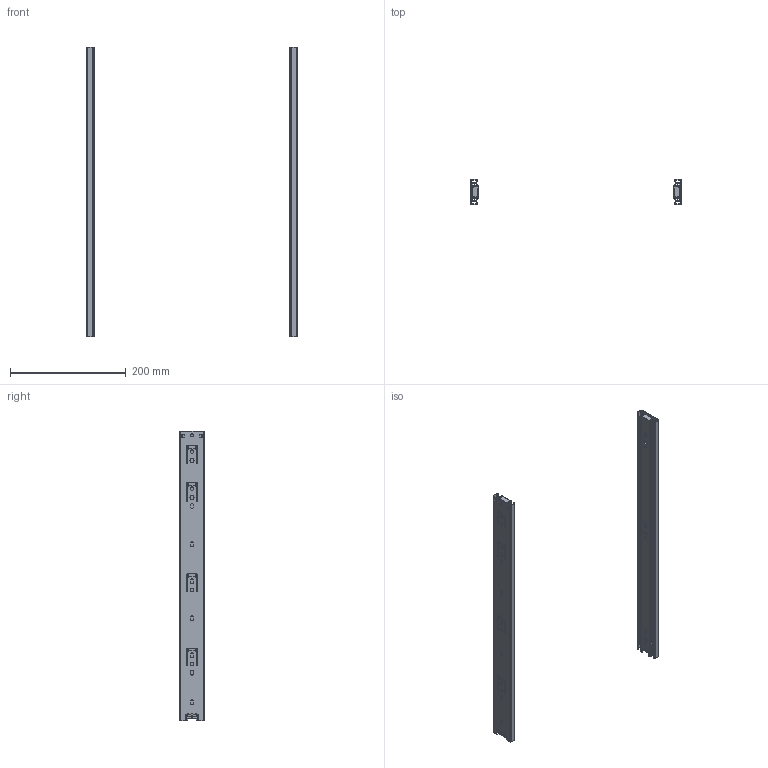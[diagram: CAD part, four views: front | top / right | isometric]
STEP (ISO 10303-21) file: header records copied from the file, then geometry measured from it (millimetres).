
FILE_DESCRIPTION(/* description */ (''),/* implementation_level */ '2;1');
FILE_NAME(/* name */ 'D:\$Workingspace\Designs\Katalog\Cadsoft\GTV Prowadnice\Prowadnice GTV_bryły 3D\PK-0H45500XP.stp',/* time_stamp */ '2016-11-22T12:30:30+01:00',/* author */ ('tomaszw'),/* organization */ (''),/* preprocessor_version */ 'ST-DEVELOPER v16.1',/* originating_system */ 'Autodesk Inventor 2016',/* authorisation */ '');
FILE_SCHEMA (('AUTOMOTIVE_DESIGN { 1 0 10303 214 3 1 1 }'));
Length unit declared in the file: millimetre
Products named in the file (5): Blokada_5; PK-0H45_1-500-XP; PK-0H45_2-500-XP; PK-0H45_3-500-XP; PK-0H45-_-XP
Assembly tree (8 placements, depth 2):
  PK-0H45-_-XP
    Blokada_5  x2
    PK-0H45_1-500-XP  x2
    PK-0H45_2-500-XP  x2
    PK-0H45_3-500-XP  x2
Bounding box: 364 x 43.7 x 500 mm (x, y, z)
Volume: 148448.8 mm3; surface area: 302988.7 mm2
Topology: 8 solids, 8 shells, 502 faces, 1450 edges, 964 vertices
Faces by surface type: cylinder 254, plane 244, cone 4
Full cylindrical faces by diameter (mm): 4.5 x6, 5 x2, 6 x8, 7 x4
Entity records: 8810 total; most frequent: DIRECTION 1487, CARTESIAN_POINT 1487, ORIENTED_EDGE 1430, EDGE_CURVE 715, AXIS2_PLACEMENT_3D 516, VERTEX_POINT 482, LINE 455, VECTOR 455
